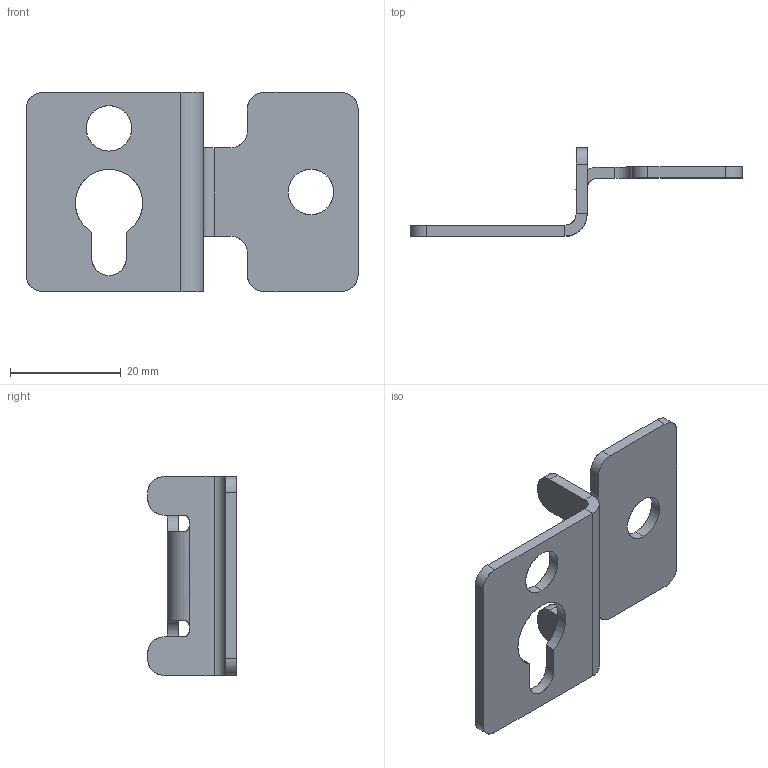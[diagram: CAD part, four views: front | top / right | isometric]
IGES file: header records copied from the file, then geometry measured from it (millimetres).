
Start section: SolidWorks IGES file using analytic representation for surfaces
Global section: file name: F:\GVD ÝÞ TAKÝBÝ\sac kalýplarý\sac kalýp parçalarý\öncelikli yapýlacak\kesinleþeler\PMD kulak.IGS; native system: SolidWorks 2010; preprocessor: SolidWorks 2010; author: Tamer; date: 110118.104953; units: millimetre
Bounding box: 60 x 16 x 36 mm (x, y, z)
Surface area: 4842.4 mm2 (no closed solid volume)
Topology: 0 solids, 0 shells, 115 faces, 1074 edges, 1014 vertices
Faces by surface type: revolution 87, bspline 28
